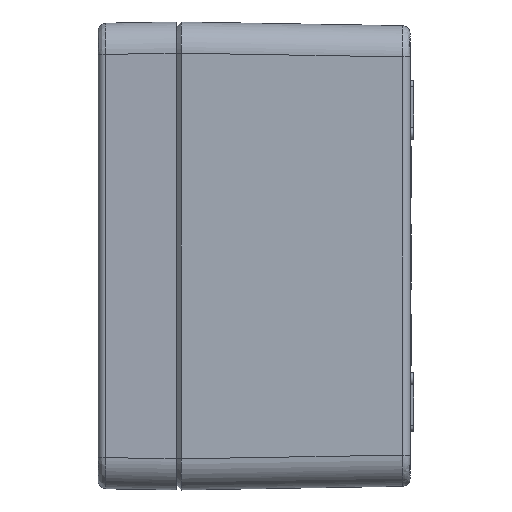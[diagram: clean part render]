
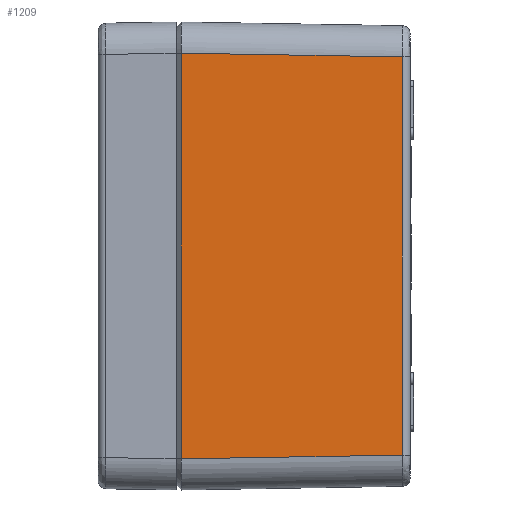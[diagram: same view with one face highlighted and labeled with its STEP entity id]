
A CAD part, left-side view. The second image highlights one B-rep face of the part: STEP entity #1209.
In plain terms, the highlighted planar face has unit normal (-1, -0.017, 0).
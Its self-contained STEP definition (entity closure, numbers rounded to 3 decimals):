
#1209 = ADVANCED_FACE ( 'NONE', ( #34635 ), #50753, .T. ) ;
#1895 = CARTESIAN_POINT ( 'NONE',  ( -61.002, 58.623, -52.003 ) ) ;
#8920 = CARTESIAN_POINT ( 'NONE',  ( -61.002, 58.623, 51.932 ) ) ;
#10475 = DIRECTION ( 'NONE',  ( -1., -0.017, 0. ) ) ;
#11004 = CARTESIAN_POINT ( 'NONE',  ( -60.005, -1.172, -54.057 ) ) ;
#13096 = CARTESIAN_POINT ( 'NONE',  ( -61.002, 58.623, -51.907 ) ) ;
#14419 = CARTESIAN_POINT ( 'NONE',  ( -61.002, 58.623, -51.939 ) ) ;
#15692 = LINE ( 'NONE', #28032, #26663 ) ;
#15814 = CARTESIAN_POINT ( 'NONE',  ( -61.002, 58.623, 51.897 ) ) ;
#17068 = DIRECTION ( 'NONE',  ( 0., 0., -1. ) ) ;
#18089 = EDGE_CURVE ( 'NONE', #28638, #34193, #15692, .T. ) ;
#20337 = EDGE_CURVE ( 'NONE', #44151, #48500, #37166, .T. ) ;
#20751 = CARTESIAN_POINT ( 'NONE',  ( -61.002, 58.623, 51.897 ) ) ;
#20812 = CARTESIAN_POINT ( 'NONE',  ( -60.058, 1.967, 51.059 ) ) ;
#21025 = CARTESIAN_POINT ( 'NONE',  ( -61.002, 58.623, 52.003 ) ) ;
#21093 = DIRECTION ( 'NONE',  ( -0.017, 1., 0.017 ) ) ;
#21264 = CARTESIAN_POINT ( 'NONE',  ( -60.058, 1.967, -51.059 ) ) ;
#22158 = ORIENTED_EDGE ( 'NONE', *, *, #20337, .T. ) ;
#22655 = VECTOR ( 'NONE', #48205, 1000. ) ;
#23093 = DIRECTION ( 'NONE',  ( 0.017, -1., 0. ) ) ;
#23800 = CARTESIAN_POINT ( 'NONE',  ( -61.002, 58.623, -51.907 ) ) ;
#25033 = CARTESIAN_POINT ( 'NONE',  ( -61.002, 58.623, 51.968 ) ) ;
#25097 = CARTESIAN_POINT ( 'NONE',  ( -61.002, 58.623, -54.057 ) ) ;
#26663 = VECTOR ( 'NONE', #36345, 1000. ) ;
#27271 = CARTESIAN_POINT ( 'NONE',  ( -61.002, 58.623, -51.971 ) ) ;
#28032 = CARTESIAN_POINT ( 'NONE',  ( -61.002, 58.623, -52.003 ) ) ;
#28638 = VERTEX_POINT ( 'NONE', #1895 ) ;
#29086 = EDGE_CURVE ( 'NONE', #44151, #34193, #31298, .T. ) ;
#30772 = CARTESIAN_POINT ( 'NONE',  ( -61.002, 58.623, -52.003 ) ) ;
#31008 = EDGE_LOOP ( 'NONE', ( #50837, #32792, #40307, #35420, #22158, #37675 ) ) ;
#31298 = LINE ( 'NONE', #44444, #22655 ) ;
#32792 = ORIENTED_EDGE ( 'NONE', *, *, #36750, .T. ) ;
#33963 = LINE ( 'NONE', #25097, #37230 ) ;
#34193 = VERTEX_POINT ( 'NONE', #21264 ) ;
#34635 = FACE_OUTER_BOUND ( 'NONE', #31008, .T. ) ;
#35420 = ORIENTED_EDGE ( 'NONE', *, *, #29086, .F. ) ;
#36345 = DIRECTION ( 'NONE',  ( 0.017, -1., 0.017 ) ) ;
#36750 = EDGE_CURVE ( 'NONE', #45016, #28638, #40052, .T. ) ;
#37166 = LINE ( 'NONE', #20812, #53153 ) ;
#37230 = VECTOR ( 'NONE', #17068, 1000. ) ;
#37238 = AXIS2_PLACEMENT_3D ( 'NONE', #11004, #10475, #23093 ) ;
#37675 = ORIENTED_EDGE ( 'NONE', *, *, #48025, .T. ) ;
#40052 = B_SPLINE_CURVE_WITH_KNOTS ( 'NONE', 3,
 ( #23800, #14419, #27271, #30772 ),
 .UNSPECIFIED., .F., .F.,
 ( 4, 4 ),
 ( 0., 0. ),
 .UNSPECIFIED. ) ;
#40307 = ORIENTED_EDGE ( 'NONE', *, *, #18089, .T. ) ;
#42910 = VERTEX_POINT ( 'NONE', #15814 ) ;
#44151 = VERTEX_POINT ( 'NONE', #53095 ) ;
#44444 = CARTESIAN_POINT ( 'NONE',  ( -60.058, 1.967, -54.057 ) ) ;
#45016 = VERTEX_POINT ( 'NONE', #13096 ) ;
#47806 = EDGE_CURVE ( 'NONE', #42910, #45016, #33963, .T. ) ;
#48025 = EDGE_CURVE ( 'NONE', #48500, #42910, #50748, .T. ) ;
#48205 = DIRECTION ( 'NONE',  ( 0., 0., -1. ) ) ;
#48500 = VERTEX_POINT ( 'NONE', #50734 ) ;
#50734 = CARTESIAN_POINT ( 'NONE',  ( -61.002, 58.623, 52.003 ) ) ;
#50748 = B_SPLINE_CURVE_WITH_KNOTS ( 'NONE', 3,
 ( #21025, #25033, #8920, #20751 ),
 .UNSPECIFIED., .F., .F.,
 ( 4, 4 ),
 ( 0., 0. ),
 .UNSPECIFIED. ) ;
#50753 = PLANE ( 'NONE',  #37238 ) ;
#50837 = ORIENTED_EDGE ( 'NONE', *, *, #47806, .T. ) ;
#53095 = CARTESIAN_POINT ( 'NONE',  ( -60.058, 1.967, 51.059 ) ) ;
#53153 = VECTOR ( 'NONE', #21093, 1000. ) ;
